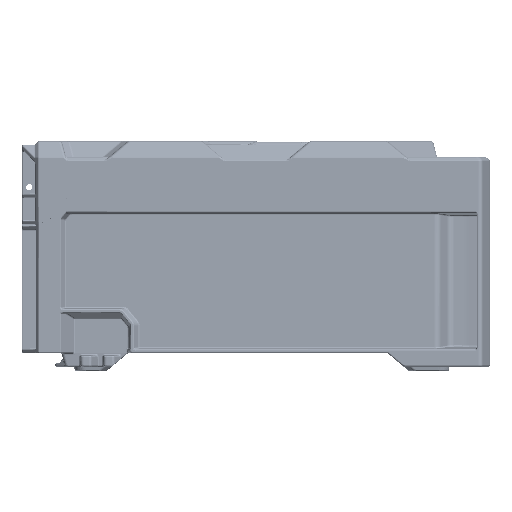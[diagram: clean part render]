
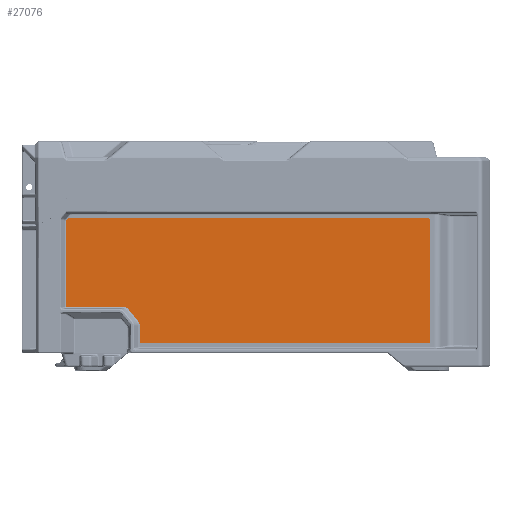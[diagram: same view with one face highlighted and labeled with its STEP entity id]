
A CAD part, left-side view. The second image highlights one B-rep face of the part: STEP entity #27076.
In plain terms, the highlighted planar face has unit normal (-1, 0, 0).
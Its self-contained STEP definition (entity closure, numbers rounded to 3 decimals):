
#7540=PLANE('',#221862);
#19791=ELLIPSE('',#221848,1.159,1.);
#19793=ELLIPSE('',#221852,5.098,4.5);
#19795=ELLIPSE('',#221855,6.931,6.);
#27076=ADVANCED_FACE('',(#44949),#7540,.T.);
#44949=FACE_OUTER_BOUND('',#58399,.T.);
#58399=EDGE_LOOP('',(#94708,#94709,#94710,#94711,#94712,#94713,#94714,#94715,
#94716,#94717,#94718,#94719,#94720));
#70640=CIRCLE('',#221860,0.5);
#70641=CIRCLE('',#221861,0.5);
#94708=ORIENTED_EDGE('',*,*,#169332,.T.);
#94709=ORIENTED_EDGE('',*,*,#169334,.T.);
#94710=ORIENTED_EDGE('',*,*,#169311,.T.);
#94711=ORIENTED_EDGE('',*,*,#169314,.F.);
#94712=ORIENTED_EDGE('',*,*,#169316,.F.);
#94713=ORIENTED_EDGE('',*,*,#169318,.F.);
#94714=ORIENTED_EDGE('',*,*,#169320,.F.);
#94715=ORIENTED_EDGE('',*,*,#169322,.F.);
#94716=ORIENTED_EDGE('',*,*,#169324,.F.);
#94717=ORIENTED_EDGE('',*,*,#169326,.F.);
#94718=ORIENTED_EDGE('',*,*,#169328,.F.);
#94719=ORIENTED_EDGE('',*,*,#169329,.T.);
#94720=ORIENTED_EDGE('',*,*,#169335,.T.);
#146212=VERTEX_POINT('',#349676);
#146213=VERTEX_POINT('',#349678);
#146214=VERTEX_POINT('',#349682);
#146215=VERTEX_POINT('',#349686);
#146216=VERTEX_POINT('',#349690);
#146217=VERTEX_POINT('',#349694);
#146218=VERTEX_POINT('',#349698);
#146219=VERTEX_POINT('',#349702);
#146220=VERTEX_POINT('',#349706);
#146221=VERTEX_POINT('',#349710);
#146222=VERTEX_POINT('',#349714);
#146223=VERTEX_POINT('',#349718);
#146224=VERTEX_POINT('',#349720);
#169311=EDGE_CURVE('',#146213,#146212,#195634,.T.);
#169314=EDGE_CURVE('',#146214,#146212,#195637,.T.);
#169316=EDGE_CURVE('',#146215,#146214,#19791,.T.);
#169318=EDGE_CURVE('',#146216,#146215,#195640,.T.);
#169320=EDGE_CURVE('',#146217,#146216,#195642,.T.);
#169322=EDGE_CURVE('',#146218,#146217,#19793,.T.);
#169324=EDGE_CURVE('',#146219,#146218,#195645,.T.);
#169326=EDGE_CURVE('',#146220,#146219,#19795,.T.);
#169328=EDGE_CURVE('',#146221,#146220,#195648,.T.);
#169329=EDGE_CURVE('',#146221,#146222,#195649,.T.);
#169332=EDGE_CURVE('',#146224,#146223,#195652,.T.);
#169334=EDGE_CURVE('',#146223,#146213,#70640,.T.);
#169335=EDGE_CURVE('',#146222,#146224,#70641,.T.);
#195634=LINE('',#349677,#207137);
#195637=LINE('',#349683,#207140);
#195640=LINE('',#349691,#207144);
#195642=LINE('',#349695,#207146);
#195645=LINE('',#349703,#207150);
#195648=LINE('',#349711,#207154);
#195649=LINE('',#349713,#207155);
#195652=LINE('',#349719,#207158);
#207137=VECTOR('',#253641,1.);
#207140=VECTOR('',#253646,1.);
#207144=VECTOR('',#253656,1.);
#207146=VECTOR('',#253660,1.);
#207150=VECTOR('',#253670,1.);
#207154=VECTOR('',#253680,1.);
#207155=VECTOR('',#253683,1.);
#207158=VECTOR('',#253688,1.);
#221848=AXIS2_PLACEMENT_3D('',#349687,#253650,#253651);
#221852=AXIS2_PLACEMENT_3D('',#349699,#253664,#253665);
#221855=AXIS2_PLACEMENT_3D('',#349707,#253674,#253675);
#221860=AXIS2_PLACEMENT_3D('',#349723,#253692,#253693);
#221861=AXIS2_PLACEMENT_3D('',#349724,#253694,#253695);
#221862=AXIS2_PLACEMENT_3D('',#349725,#253696,#253697);
#253641=DIRECTION('',(0.,1.,0.));
#253646=DIRECTION('',(0.,-0.64,0.768));
#253650=DIRECTION('',(1.,0.,0.));
#253651=DIRECTION('',(0.,0.986,0.165));
#253656=DIRECTION('',(0.,0.,1.));
#253660=DIRECTION('',(0.,1.,0.));
#253664=DIRECTION('',(-1.,0.,0.));
#253665=DIRECTION('',(0.,-0.983,0.181));
#253670=DIRECTION('',(0.,0.643,0.766));
#253674=DIRECTION('',(-1.,0.,0.));
#253675=DIRECTION('',(0.,-0.998,0.056));
#253680=DIRECTION('',(0.,0.,1.));
#253683=DIRECTION('',(0.,-1.,0.));
#253688=DIRECTION('',(0.,0.,1.));
#253692=DIRECTION('',(-1.,0.,0.));
#253693=DIRECTION('',(0.,0.,-1.));
#253694=DIRECTION('',(-1.,0.,0.));
#253695=DIRECTION('',(0.,0.,-1.));
#253696=DIRECTION('',(-1.,0.,0.));
#253697=DIRECTION('',(0.,0.,-1.));
#349676=CARTESIAN_POINT('',(-192.4,-28.979,-13.75));
#349677=CARTESIAN_POINT('',(-192.4,0.,-13.75));
#349678=CARTESIAN_POINT('',(-192.4,-257.593,-13.75));
#349682=CARTESIAN_POINT('',(-192.4,-28.301,-14.563));
#349683=CARTESIAN_POINT('',(-192.4,-23.857,-19.893));
#349686=CARTESIAN_POINT('',(-192.4,-28.093,-15.13));
#349687=CARTESIAN_POINT('',(-192.4,-29.247,-15.178));
#349690=CARTESIAN_POINT('',(-192.4,-28.093,-69.561));
#349691=CARTESIAN_POINT('',(-192.4,-28.093,0.));
#349694=CARTESIAN_POINT('',(-192.4,-63.491,-69.561));
#349695=CARTESIAN_POINT('',(-192.4,0.,-69.561));
#349698=CARTESIAN_POINT('',(-192.4,-67.383,-71.274));
#349699=CARTESIAN_POINT('',(-192.4,-63.265,-74.082));
#349702=CARTESIAN_POINT('',(-192.4,-73.128,-78.121));
#349703=CARTESIAN_POINT('',(-192.4,-67.481,-71.391));
#349706=CARTESIAN_POINT('',(-192.4,-74.43,-81.605));
#349707=CARTESIAN_POINT('',(-192.4,-67.501,-81.703));
#349710=CARTESIAN_POINT('',(-192.4,-74.43,-92.75));
#349711=CARTESIAN_POINT('',(-192.4,-74.43,0.));
#349713=CARTESIAN_POINT('',(-192.4,0.,-92.75));
#349714=CARTESIAN_POINT('',(-192.4,-257.593,-92.75));
#349718=CARTESIAN_POINT('',(-192.4,-258.093,-14.25));
#349719=CARTESIAN_POINT('',(-192.4,-258.093,0.));
#349720=CARTESIAN_POINT('',(-192.4,-258.093,-92.25));
#349723=CARTESIAN_POINT('',(-192.4,-257.593,-14.25));
#349724=CARTESIAN_POINT('',(-192.4,-257.593,-92.25));
#349725=CARTESIAN_POINT('',(-192.4,0.,0.));
